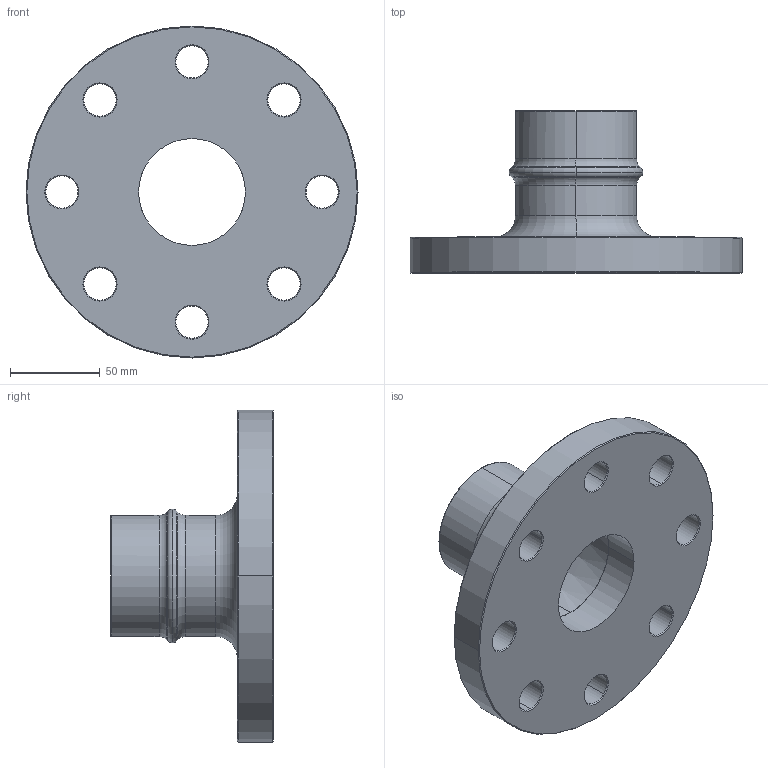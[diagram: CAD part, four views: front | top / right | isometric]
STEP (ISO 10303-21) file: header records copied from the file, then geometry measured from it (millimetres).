
FILE_DESCRIPTION((''),'2;1');
FILE_NAME('AU15617000','2019-12-13T',('Administrator'),(''),'PRO/ENGINEER BY PARAMETRIC TECHNOLOGY CORPORATION, 2009360','PRO/ENGINEER BY PARAMETRIC TECHNOLOGY CORPORATION, 2009360','');
FILE_SCHEMA(('AUTOMOTIVE_DESIGN_CC2 { 1 2 10303 214 -1 1 5 2 }'));
Length unit declared in the file: millimetre
Products named in the file (1): AU15617000
Bounding box: 185 x 90.47 x 185 mm (x, y, z)
Volume: 501397.4 mm3; surface area: 95692.7 mm2
Topology: 1 solids, 1 shells, 84 faces, 192 edges, 112 vertices
Faces by surface type: cone 42, cylinder 24, torus 14, plane 4
Entity records: 3021 total; most frequent: DIRECTION 486, CARTESIAN_POINT 388, ORIENTED_EDGE 384, AXIS2_PLACEMENT_3D 210, PRESENTATION_STYLE_ASSIGNMENT 193, STYLED_ITEM 193, CURVE_STYLE 192, EDGE_CURVE 192
